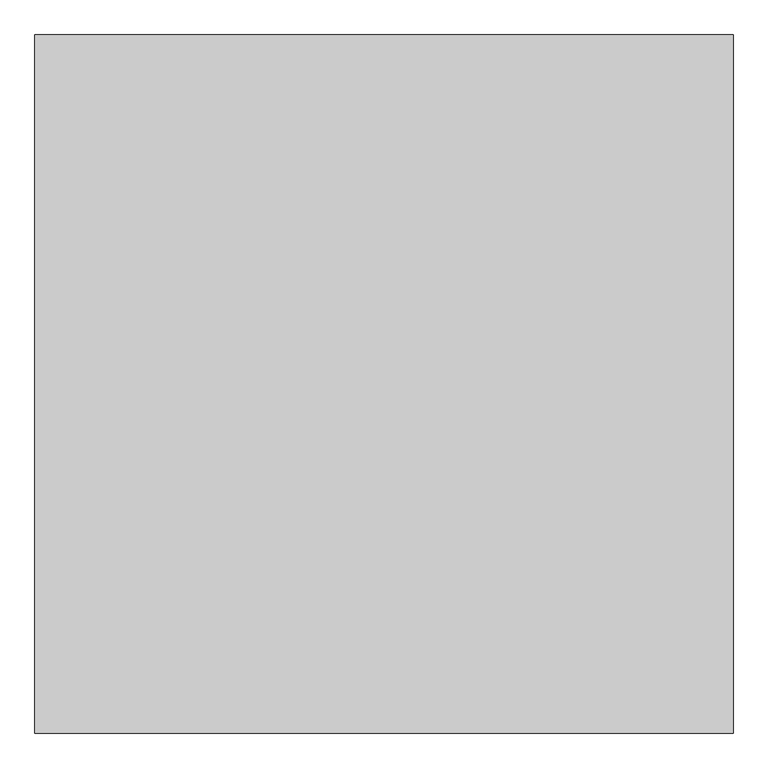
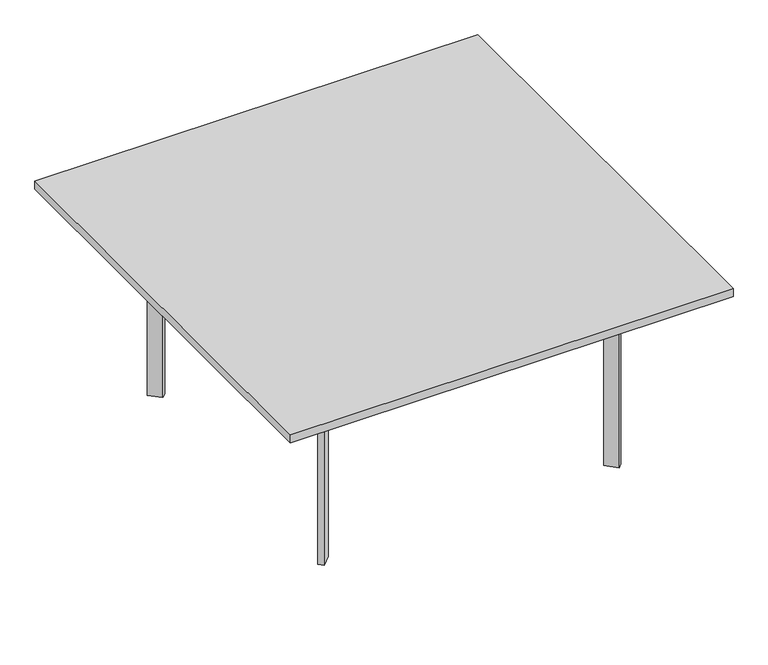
"""IFC4 building model written with IfcOpenShell, lengths in millimetres: furniture geometry, Knoll_Studio_MiesvanderRohe_Barcelona_Table : Knoll_Studio_MiesvanderRohe_Barcelona_Table."""

from ifc_helpers import new_model, si_unit, point, frame, frame_2d, origin, origin_with_axes, place, context, project, spatial, polyline, circle_curve, trimmed, segment, composite_curve, outline, extrude, source, transform, mapped, element, save


def furniture_ca6b1e75(model_context):
    return source(origin(), model_context, "Body", "SweptSolid", [
        extrude(outline(polyline([(-505.1216037, 505.0481631), (504.5283963, 505.0481631), (504.5283963, -504.6018369), (-505.1216037, -504.6018369), (-505.1216037, 505.0481631)])), frame((0.0, 0.0, 450.85), z_axis=(0.0, 0.0, 1.0), x_axis=(1.0, 0.0, 0.0)), (0.0, 0.0, 1.0), 19.05),
        extrude(outline(composite_curve([segment(trimmed(circle_curve(frame_2d((324.2565832, 324.2749366)), 6.35), [point((324.2565832, 330.6249366))], [point((324.2565832, 317.9249366))], False, "CARTESIAN"), True, "CONTINUOUS"), segment(trimmed(circle_curve(frame_2d((324.2565832, 324.2749366)), 6.35), [point((324.2565832, 317.9249366))], [point((324.2565832, 330.6249366))], False, "CARTESIAN"), True, "CONTINUOUS")], self_intersect=False)), frame((0.0, 0.0, 447.6750121), z_axis=(0.0, 0.0, 1.0), x_axis=(1.0, 0.0, 0.0)), (0.0, 0.0, 1.0), 3.1749879),
        extrude(outline(composite_curve([segment(trimmed(circle_curve(frame_2d((-324.2749366, 324.2565832)), 6.35), [point((-330.6249366, 324.2565832))], [point((-317.9249366, 324.2565832))], False, "CARTESIAN"), True, "CONTINUOUS"), segment(trimmed(circle_curve(frame_2d((-324.2749366, 324.2565832)), 6.35), [point((-317.9249366, 324.2565832))], [point((-330.6249366, 324.2565832))], False, "CARTESIAN"), True, "CONTINUOUS")], self_intersect=False)), frame((0.0, 0.0, 447.6750121), z_axis=(0.0, 0.0, 1.0), x_axis=(1.0, 0.0, 0.0)), (0.0, 0.0, 1.0), 3.1749879),
        extrude(outline(composite_curve([segment(trimmed(circle_curve(frame_2d((324.2565832, -324.2749366)), 6.35), [point((324.2565832, -317.9249366))], [point((324.2565832, -330.6249366))], False, "CARTESIAN"), True, "CONTINUOUS"), segment(trimmed(circle_curve(frame_2d((324.2565832, -324.2749366)), 6.35), [point((324.2565832, -330.6249366))], [point((324.2565832, -317.9249366))], False, "CARTESIAN"), True, "CONTINUOUS")], self_intersect=False)), frame((0.0, 0.0, 447.6750121), z_axis=(0.0, 0.0, 1.0), x_axis=(1.0, 0.0, 0.0)), (0.0, 0.0, 1.0), 3.1749879),
        extrude(outline(composite_curve([segment(trimmed(circle_curve(frame_2d((-324.2749366, -324.2565832)), 6.35), [point((-317.9249366, -324.2565832))], [point((-330.6249366, -324.2565832))], False, "CARTESIAN"), True, "CONTINUOUS"), segment(trimmed(circle_curve(frame_2d((-324.2749366, -324.2565832)), 6.35), [point((-330.6249366, -324.2565832))], [point((-317.9249366, -324.2565832))], False, "CARTESIAN"), True, "CONTINUOUS")], self_intersect=False)), frame((0.0, 0.0, 447.6750121), z_axis=(0.0, 0.0, 1.0), x_axis=(1.0, 0.0, 0.0)), (0.0, 0.0, 1.0), 3.1749879),
        extrude(outline(composite_curve([segment(trimmed(circle_curve(frame_2d((-0.0183535, 0.0)), 6.35), [point((6.3316465, 0.0))], [point((-6.3683535, 0.0))], False, "CARTESIAN"), True, "CONTINUOUS"), segment(trimmed(circle_curve(frame_2d((-0.0183535, 0.0)), 6.35), [point((-6.3683535, 0.0))], [point((6.3316465, 0.0))], False, "CARTESIAN"), True, "CONTINUOUS")], self_intersect=False)), frame((0.0, 0.0, 447.6750121), z_axis=(0.0, 0.0, 1.0), x_axis=(1.0, 0.0, 0.0)), (0.0, 0.0, 1.0), 3.1749879),
        extrude(outline(polyline([(323.2892057, -314.3089763), (345.7398703, -336.7596045), (336.7596045, -345.7398703), (314.3089763, -323.2892057), (323.2892057, -314.3089763)])), origin_with_axes(), (0.0, 0.0, 1.0), 447.6750121),
        extrude(outline(polyline([(-336.7596045, 345.7398703), (-314.3089399, 323.2892421), (-323.2892057, 314.3089763), (-345.7398339, 336.7596408), (-336.7596045, 345.7398703)])), origin_with_axes(), (0.0, 0.0, 1.0), 447.6750121),
        extrude(outline(polyline([(-314.3089763, -323.2892057), (-336.7596045, -345.7398703), (-345.7398703, -336.7596045), (-323.2892057, -314.3089763), (-314.3089763, -323.2892057)])), origin_with_axes(), (0.0, 0.0, 1.0), 447.6750121),
        extrude(outline(polyline([(345.7398703, 336.7596045), (323.2892421, 314.3089399), (314.3089763, 323.2892057), (336.7596408, 345.7398339), (345.7398703, 336.7596045)])), origin_with_axes(), (0.0, 0.0, 1.0), 447.6750121),
        extrude(outline(composite_curve([segment(polyline([(-4.7867317, -13.2472211), (-314.5688463, -323.0293357), (-323.2892057, -314.3089763), (-13.4698597, -4.4901317)]), True, "CONTINUOUS"), segment(trimmed(circle_curve(frame_2d((-17.9599842, 0.0)), 6.35), [point((-13.4698597, -4.4901317))], [point((-13.4698597, 4.4901317))], True, "CARTESIAN"), True, "CONTINUOUS"), segment(polyline([(-13.4698597, 4.4901317), (-323.2892057, 314.3089763), (-314.3456832, 323.2524988), (-4.5265842, 13.4333999)]), True, "CONTINUOUS"), segment(trimmed(circle_curve(frame_2d((-0.0364562, 17.9235279)), 6.35), [point((-4.5265842, 13.4333999))], [point((4.4536755, 13.4334035))], True, "CARTESIAN"), True, "CONTINUOUS"), segment(polyline([(4.4536755, 13.4334035), (314.3089763, 323.2892057), (323.0293357, 314.5688463), (13.1737805, 4.7132912)]), True, "CONTINUOUS"), segment(trimmed(circle_curve(frame_2d((17.6639086, 0.2231632)), 6.35), [point((13.1737805, 4.7132912))], [point((13.1737805, -4.2669649))], True, "CARTESIAN"), True, "CONTINUOUS"), segment(polyline([(13.1737805, -4.2669649), (323.2524988, -314.3456832), (314.2722427, -323.3259393), (4.1935245, -13.2472211)]), True, "CONTINUOUS"), segment(trimmed(circle_curve(frame_2d((-0.2966036, -17.7373491)), 6.35), [point((4.1935245, -13.2472211))], [point((-4.7867317, -13.2472211))], True, "CARTESIAN"), True, "CONTINUOUS")], self_intersect=False)), frame((0.0, 0.0, 415.9249879), z_axis=(0.0, 0.0, 1.0), x_axis=(1.0, 0.0, 0.0)), (0.0, 0.0, 1.0), 31.7500242),
    ])


if __name__ == "__main__":
    model = new_model("IFC4")
    model_context = context("Model", 3, world=origin())
    ifc_project = project(units=[si_unit("LENGTHUNIT", "METRE", prefix="MILLI")], contexts=[model_context])
    site = spatial("IfcSite", under=ifc_project)
    building = spatial("IfcBuilding", under=site)
    placement = place(None, origin())
    furniture_shape = furniture_ca6b1e75(model_context)
    element("IfcFurniture", 1, ObjectType="Knoll_Studio_MiesvanderRohe_Barcelona_Table : Knoll_Studio_MiesvanderRohe_Barcelona_Table", at=placement, inside=building, context=model_context, shape_type="MappedRepresentation", body=[
        mapped(furniture_shape, transform((0.0, 0.0, 0.0), x_axis=(1.0, 0.0, 0.0), y_axis=(0.0, 1.0, 0.0), z_axis=(0.0, 0.0, 1.0))),
    ])
    save(model, "model.ifc")
